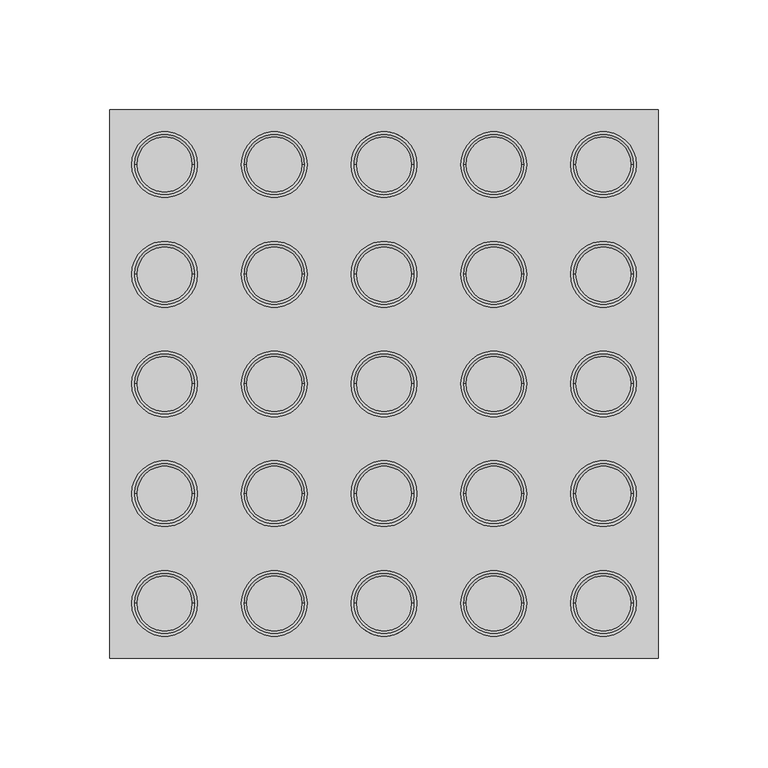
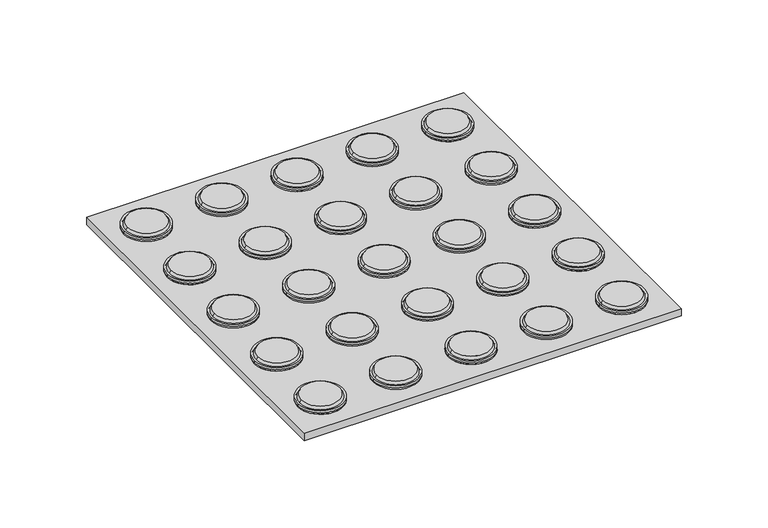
"""IFC4 building model written with IfcOpenShell, lengths in millimetres: proxy geometry, Sinalização tátil - NBR 9050 : Sinalização tátil - NBR 9050."""

from ifc_helpers import new_model, si_unit, point, frame, frame_2d, origin, origin_with_axes, origin_2d, place, context, project, spatial, polyline, circle_curve, trimmed, segment, composite_curve, outline, extrude, source, transform, mapped, element, save
from ifc_brep_helpers import plane_surface, revolved_surface, advanced_brep


def generic_models_d4dd3fca(model_context):
    return source(origin(), model_context, "Body", "SolidModel", [
        advanced_brep(
        [(87.5, 100.0, 9.0), (112.5, 100.0, 9.0), (85.0, 100.0, 5.0), (115.0, 100.0, 5.0)],
        [
            (0, 1, circle_curve(frame((100.0, 100.0, 9.0), z_axis=(0.0, 0.0, 1.0), x_axis=(-1.0, 0.0, 0.0)), 12.5)),
            (1, 0, circle_curve(frame((100.0, 100.0, 9.0), z_axis=(0.0, 0.0, 1.0), x_axis=(1.0, 0.0, 0.0)), 12.5)),
            (2, 3, circle_curve(frame((100.0, 100.0, 5.0), z_axis=(0.0, 0.0, -1.0), x_axis=(1.0, 0.0, 0.0)), 15.0)),
            (3, 2, circle_curve(frame((100.0, 100.0, 5.0), z_axis=(0.0, 0.0, -1.0), x_axis=(-1.0, 0.0, 0.0)), 15.0)),
            (3, 1),
            (0, 2),
        ],
        [
            plane_surface(frame((100.0, 100.0, 9.0), z_axis=(0.0, 0.0, 1.0), x_axis=(0.0, -1.0, 0.0))),
            plane_surface(frame((100.0, 100.0, 5.0), z_axis=(0.0, 0.0, -1.0), x_axis=(0.0, -1.0, 0.0))),
            revolved_surface(polyline([(87.5, 100.0, 9.0), (85.0, 100.0, 5.0)]), (100.0, 100.0, 29.0), (0.0, 0.0, -1.0)),
            revolved_surface(polyline([(112.5, 100.0, 9.0), (115.0, 100.0, 5.0)]), (100.0, 100.0, 29.0), (0.0, 0.0, -1.0)),
        ],
        [
            (0, [[1, 2]]),
            (1, [[3, 4]]),
            (2, [[-4, 5, -1, 6]]),
            (3, [[-3, -6, -2, -5]]),
        ],
    ),
        advanced_brep(
        [(37.5, 100.0, 9.0), (62.5, 100.0, 9.0), (35.0, 100.0, 5.0), (65.0, 100.0, 5.0)],
        [
            (0, 1, circle_curve(frame((50.0, 100.0, 9.0), z_axis=(0.0, 0.0, 1.0), x_axis=(-1.0, 0.0, 0.0)), 12.5)),
            (1, 0, circle_curve(frame((50.0, 100.0, 9.0), z_axis=(0.0, 0.0, 1.0), x_axis=(1.0, 0.0, 0.0)), 12.5)),
            (2, 3, circle_curve(frame((50.0, 100.0, 5.0), z_axis=(0.0, 0.0, -1.0), x_axis=(1.0, 0.0, 0.0)), 15.0)),
            (3, 2, circle_curve(frame((50.0, 100.0, 5.0), z_axis=(0.0, 0.0, -1.0), x_axis=(-1.0, 0.0, 0.0)), 15.0)),
            (3, 1),
            (0, 2),
        ],
        [
            plane_surface(frame((50.0, 100.0, 9.0), z_axis=(0.0, 0.0, 1.0), x_axis=(0.0, -1.0, 0.0))),
            plane_surface(frame((50.0, 100.0, 5.0), z_axis=(0.0, 0.0, -1.0), x_axis=(0.0, -1.0, 0.0))),
            revolved_surface(polyline([(37.5, 100.0, 9.0), (35.0, 100.0, 5.0)]), (50.0, 100.0, 29.0), (0.0, 0.0, -1.0)),
            revolved_surface(polyline([(62.5, 100.0, 9.0), (65.0, 100.0, 5.0)]), (50.0, 100.0, 29.0), (0.0, 0.0, -1.0)),
        ],
        [
            (0, [[1, 2]]),
            (1, [[3, 4]]),
            (2, [[-4, 5, -1, 6]]),
            (3, [[-3, -6, -2, -5]]),
        ],
    ),
        advanced_brep(
        [(-12.5, 100.0, 9.0), (12.5, 100.0, 9.0), (-15.0, 100.0, 5.0), (15.0, 100.0, 5.0)],
        [
            (0, 1, circle_curve(frame((0.0, 100.0, 9.0), z_axis=(0.0, 0.0, 1.0), x_axis=(-1.0, 0.0, 0.0)), 12.5)),
            (1, 0, circle_curve(frame((0.0, 100.0, 9.0), z_axis=(0.0, 0.0, 1.0), x_axis=(1.0, 0.0, 0.0)), 12.5)),
            (2, 3, circle_curve(frame((0.0, 100.0, 5.0), z_axis=(0.0, 0.0, -1.0), x_axis=(1.0, 0.0, 0.0)), 15.0)),
            (3, 2, circle_curve(frame((0.0, 100.0, 5.0), z_axis=(0.0, 0.0, -1.0), x_axis=(-1.0, 0.0, 0.0)), 15.0)),
            (3, 1),
            (0, 2),
        ],
        [
            plane_surface(frame((0.0, 100.0, 9.0), z_axis=(0.0, 0.0, 1.0), x_axis=(0.0, -1.0, 0.0))),
            plane_surface(frame((0.0, 100.0, 5.0), z_axis=(0.0, 0.0, -1.0), x_axis=(0.0, -1.0, 0.0))),
            revolved_surface(polyline([(-12.5, 100.0, 9.0), (-15.0, 100.0, 5.0)]), (0.0, 100.0, 29.0), (0.0, 0.0, -1.0)),
            revolved_surface(polyline([(12.5, 100.0, 9.0), (15.0, 100.0, 5.0)]), (0.0, 100.0, 29.0), (0.0, 0.0, -1.0)),
        ],
        [
            (0, [[1, 2]]),
            (1, [[3, 4]]),
            (2, [[-4, 5, -1, 6]]),
            (3, [[-3, -6, -2, -5]]),
        ],
    ),
        advanced_brep(
        [(-62.5, 100.0, 9.0), (-37.5, 100.0, 9.0), (-65.0, 100.0, 5.0), (-35.0, 100.0, 5.0)],
        [
            (0, 1, circle_curve(frame((-50.0, 100.0, 9.0), z_axis=(0.0, 0.0, 1.0), x_axis=(-1.0, 0.0, 0.0)), 12.5)),
            (1, 0, circle_curve(frame((-50.0, 100.0, 9.0), z_axis=(0.0, 0.0, 1.0), x_axis=(1.0, 0.0, 0.0)), 12.5)),
            (2, 3, circle_curve(frame((-50.0, 100.0, 5.0), z_axis=(0.0, 0.0, -1.0), x_axis=(1.0, 0.0, 0.0)), 15.0)),
            (3, 2, circle_curve(frame((-50.0, 100.0, 5.0), z_axis=(0.0, 0.0, -1.0), x_axis=(-1.0, 0.0, 0.0)), 15.0)),
            (3, 1),
            (0, 2),
        ],
        [
            plane_surface(frame((-50.0, 100.0, 9.0), z_axis=(0.0, 0.0, 1.0), x_axis=(0.0, -1.0, 0.0))),
            plane_surface(frame((-50.0, 100.0, 5.0), z_axis=(0.0, 0.0, -1.0), x_axis=(0.0, -1.0, 0.0))),
            revolved_surface(polyline([(-62.5, 100.0, 9.0), (-65.0, 100.0, 5.0)]), (-50.0, 100.0, 29.0), (0.0, 0.0, -1.0)),
            revolved_surface(polyline([(-37.5, 100.0, 9.0), (-35.0, 100.0, 5.0)]), (-50.0, 100.0, 29.0), (0.0, 0.0, -1.0)),
        ],
        [
            (0, [[1, 2]]),
            (1, [[3, 4]]),
            (2, [[-4, 5, -1, 6]]),
            (3, [[-3, -6, -2, -5]]),
        ],
    ),
        advanced_brep(
        [(-112.5, 100.0, 9.0), (-87.5, 100.0, 9.0), (-115.0, 100.0, 5.0), (-85.0, 100.0, 5.0)],
        [
            (0, 1, circle_curve(frame((-100.0, 100.0, 9.0), z_axis=(0.0, 0.0, 1.0), x_axis=(-1.0, 0.0, 0.0)), 12.5)),
            (1, 0, circle_curve(frame((-100.0, 100.0, 9.0), z_axis=(0.0, 0.0, 1.0), x_axis=(1.0, 0.0, 0.0)), 12.5)),
            (2, 3, circle_curve(frame((-100.0, 100.0, 5.0), z_axis=(0.0, 0.0, -1.0), x_axis=(1.0, 0.0, 0.0)), 15.0)),
            (3, 2, circle_curve(frame((-100.0, 100.0, 5.0), z_axis=(0.0, 0.0, -1.0), x_axis=(-1.0, 0.0, 0.0)), 15.0)),
            (3, 1),
            (0, 2),
        ],
        [
            plane_surface(frame((-100.0, 100.0, 9.0), z_axis=(0.0, 0.0, 1.0), x_axis=(0.0, -1.0, 0.0))),
            plane_surface(frame((-100.0, 100.0, 5.0), z_axis=(0.0, 0.0, -1.0), x_axis=(0.0, -1.0, 0.0))),
            revolved_surface(polyline([(-112.5, 100.0, 9.0), (-115.0, 100.0, 5.0)]), (-100.0, 100.0, 29.0), (0.0, 0.0, -1.0)),
            revolved_surface(polyline([(-87.5, 100.0, 9.0), (-85.0, 100.0, 5.0)]), (-100.0, 100.0, 29.0), (0.0, 0.0, -1.0)),
        ],
        [
            (0, [[1, 2]]),
            (1, [[3, 4]]),
            (2, [[-4, 5, -1, 6]]),
            (3, [[-3, -6, -2, -5]]),
        ],
    ),
        advanced_brep(
        [(87.5, 50.0, 9.0), (112.5, 50.0, 9.0), (85.0, 50.0, 5.0), (115.0, 50.0, 5.0)],
        [
            (0, 1, circle_curve(frame((100.0, 50.0, 9.0), z_axis=(0.0, 0.0, 1.0), x_axis=(-1.0, 0.0, 0.0)), 12.5)),
            (1, 0, circle_curve(frame((100.0, 50.0, 9.0), z_axis=(0.0, 0.0, 1.0), x_axis=(1.0, 0.0, 0.0)), 12.5)),
            (2, 3, circle_curve(frame((100.0, 50.0, 5.0), z_axis=(0.0, 0.0, -1.0), x_axis=(1.0, 0.0, 0.0)), 15.0)),
            (3, 2, circle_curve(frame((100.0, 50.0, 5.0), z_axis=(0.0, 0.0, -1.0), x_axis=(-1.0, 0.0, 0.0)), 15.0)),
            (3, 1),
            (0, 2),
        ],
        [
            plane_surface(frame((100.0, 50.0, 9.0), z_axis=(0.0, 0.0, 1.0), x_axis=(0.0, -1.0, 0.0))),
            plane_surface(frame((100.0, 50.0, 5.0), z_axis=(0.0, 0.0, -1.0), x_axis=(0.0, -1.0, 0.0))),
            revolved_surface(polyline([(87.5, 50.0, 9.0), (85.0, 50.0, 5.0)]), (100.0, 50.0, 29.0), (0.0, 0.0, -1.0)),
            revolved_surface(polyline([(112.5, 50.0, 9.0), (115.0, 50.0, 5.0)]), (100.0, 50.0, 29.0), (0.0, 0.0, -1.0)),
        ],
        [
            (0, [[1, 2]]),
            (1, [[3, 4]]),
            (2, [[-4, 5, -1, 6]]),
            (3, [[-3, -6, -2, -5]]),
        ],
    ),
        advanced_brep(
        [(37.5, 50.0, 9.0), (62.5, 50.0, 9.0), (35.0, 50.0, 5.0), (65.0, 50.0, 5.0)],
        [
            (0, 1, circle_curve(frame((50.0, 50.0, 9.0), z_axis=(0.0, 0.0, 1.0), x_axis=(-1.0, 0.0, 0.0)), 12.5)),
            (1, 0, circle_curve(frame((50.0, 50.0, 9.0), z_axis=(0.0, 0.0, 1.0), x_axis=(1.0, 0.0, 0.0)), 12.5)),
            (2, 3, circle_curve(frame((50.0, 50.0, 5.0), z_axis=(0.0, 0.0, -1.0), x_axis=(1.0, 0.0, 0.0)), 15.0)),
            (3, 2, circle_curve(frame((50.0, 50.0, 5.0), z_axis=(0.0, 0.0, -1.0), x_axis=(-1.0, 0.0, 0.0)), 15.0)),
            (3, 1),
            (0, 2),
        ],
        [
            plane_surface(frame((50.0, 50.0, 9.0), z_axis=(0.0, 0.0, 1.0), x_axis=(0.0, -1.0, 0.0))),
            plane_surface(frame((50.0, 50.0, 5.0), z_axis=(0.0, 0.0, -1.0), x_axis=(0.0, -1.0, 0.0))),
            revolved_surface(polyline([(37.5, 50.0, 9.0), (35.0, 50.0, 5.0)]), (50.0, 50.0, 29.0), (0.0, 0.0, -1.0)),
            revolved_surface(polyline([(62.5, 50.0, 9.0), (65.0, 50.0, 5.0)]), (50.0, 50.0, 29.0), (0.0, 0.0, -1.0)),
        ],
        [
            (0, [[1, 2]]),
            (1, [[3, 4]]),
            (2, [[-4, 5, -1, 6]]),
            (3, [[-3, -6, -2, -5]]),
        ],
    ),
        advanced_brep(
        [(-12.5, 50.0, 9.0), (12.5, 50.0, 9.0), (-15.0, 50.0, 5.0), (15.0, 50.0, 5.0)],
        [
            (0, 1, circle_curve(frame((0.0, 50.0, 9.0), z_axis=(0.0, 0.0, 1.0), x_axis=(-1.0, 0.0, 0.0)), 12.5)),
            (1, 0, circle_curve(frame((0.0, 50.0, 9.0), z_axis=(0.0, 0.0, 1.0), x_axis=(1.0, 0.0, 0.0)), 12.5)),
            (2, 3, circle_curve(frame((0.0, 50.0, 5.0), z_axis=(0.0, 0.0, -1.0), x_axis=(1.0, 0.0, 0.0)), 15.0)),
            (3, 2, circle_curve(frame((0.0, 50.0, 5.0), z_axis=(0.0, 0.0, -1.0), x_axis=(-1.0, 0.0, 0.0)), 15.0)),
            (3, 1),
            (0, 2),
        ],
        [
            plane_surface(frame((0.0, 50.0, 9.0), z_axis=(0.0, 0.0, 1.0), x_axis=(0.0, -1.0, 0.0))),
            plane_surface(frame((0.0, 50.0, 5.0), z_axis=(0.0, 0.0, -1.0), x_axis=(0.0, -1.0, 0.0))),
            revolved_surface(polyline([(-12.5, 50.0, 9.0), (-15.0, 50.0, 5.0)]), (0.0, 50.0, 29.0), (0.0, 0.0, -1.0)),
            revolved_surface(polyline([(12.5, 50.0, 9.0), (15.0, 50.0, 5.0)]), (0.0, 50.0, 29.0), (0.0, 0.0, -1.0)),
        ],
        [
            (0, [[1, 2]]),
            (1, [[3, 4]]),
            (2, [[-4, 5, -1, 6]]),
            (3, [[-3, -6, -2, -5]]),
        ],
    ),
        advanced_brep(
        [(-62.5, 50.0, 9.0), (-37.5, 50.0, 9.0), (-65.0, 50.0, 5.0), (-35.0, 50.0, 5.0)],
        [
            (0, 1, circle_curve(frame((-50.0, 50.0, 9.0), z_axis=(0.0, 0.0, 1.0), x_axis=(-1.0, 0.0, 0.0)), 12.5)),
            (1, 0, circle_curve(frame((-50.0, 50.0, 9.0), z_axis=(0.0, 0.0, 1.0), x_axis=(1.0, 0.0, 0.0)), 12.5)),
            (2, 3, circle_curve(frame((-50.0, 50.0, 5.0), z_axis=(0.0, 0.0, -1.0), x_axis=(1.0, 0.0, 0.0)), 15.0)),
            (3, 2, circle_curve(frame((-50.0, 50.0, 5.0), z_axis=(0.0, 0.0, -1.0), x_axis=(-1.0, 0.0, 0.0)), 15.0)),
            (3, 1),
            (0, 2),
        ],
        [
            plane_surface(frame((-50.0, 50.0, 9.0), z_axis=(0.0, 0.0, 1.0), x_axis=(0.0, -1.0, 0.0))),
            plane_surface(frame((-50.0, 50.0, 5.0), z_axis=(0.0, 0.0, -1.0), x_axis=(0.0, -1.0, 0.0))),
            revolved_surface(polyline([(-62.5, 50.0, 9.0), (-65.0, 50.0, 5.0)]), (-50.0, 50.0, 29.0), (0.0, 0.0, -1.0)),
            revolved_surface(polyline([(-37.5, 50.0, 9.0), (-35.0, 50.0, 5.0)]), (-50.0, 50.0, 29.0), (0.0, 0.0, -1.0)),
        ],
        [
            (0, [[1, 2]]),
            (1, [[3, 4]]),
            (2, [[-4, 5, -1, 6]]),
            (3, [[-3, -6, -2, -5]]),
        ],
    ),
        advanced_brep(
        [(-112.5, 50.0, 9.0), (-87.5, 50.0, 9.0), (-115.0, 50.0, 5.0), (-85.0, 50.0, 5.0)],
        [
            (0, 1, circle_curve(frame((-100.0, 50.0, 9.0), z_axis=(0.0, 0.0, 1.0), x_axis=(-1.0, 0.0, 0.0)), 12.5)),
            (1, 0, circle_curve(frame((-100.0, 50.0, 9.0), z_axis=(0.0, 0.0, 1.0), x_axis=(1.0, 0.0, 0.0)), 12.5)),
            (2, 3, circle_curve(frame((-100.0, 50.0, 5.0), z_axis=(0.0, 0.0, -1.0), x_axis=(1.0, 0.0, 0.0)), 15.0)),
            (3, 2, circle_curve(frame((-100.0, 50.0, 5.0), z_axis=(0.0, 0.0, -1.0), x_axis=(-1.0, 0.0, 0.0)), 15.0)),
            (3, 1),
            (0, 2),
        ],
        [
            plane_surface(frame((-100.0, 50.0, 9.0), z_axis=(0.0, 0.0, 1.0), x_axis=(0.0, -1.0, 0.0))),
            plane_surface(frame((-100.0, 50.0, 5.0), z_axis=(0.0, 0.0, -1.0), x_axis=(0.0, -1.0, 0.0))),
            revolved_surface(polyline([(-112.5, 50.0, 9.0), (-115.0, 50.0, 5.0)]), (-100.0, 50.0, 29.0), (0.0, 0.0, -1.0)),
            revolved_surface(polyline([(-87.5, 50.0, 9.0), (-85.0, 50.0, 5.0)]), (-100.0, 50.0, 29.0), (0.0, 0.0, -1.0)),
        ],
        [
            (0, [[1, 2]]),
            (1, [[3, 4]]),
            (2, [[-4, 5, -1, 6]]),
            (3, [[-3, -6, -2, -5]]),
        ],
    ),
        advanced_brep(
        [(87.5, 0.0, 9.0), (112.5, 0.0, 9.0), (85.0, 0.0, 5.0), (115.0, 0.0, 5.0)],
        [
            (0, 1, circle_curve(frame((100.0, 0.0, 9.0), z_axis=(0.0, 0.0, 1.0), x_axis=(-1.0, 0.0, 0.0)), 12.5)),
            (1, 0, circle_curve(frame((100.0, 0.0, 9.0), z_axis=(0.0, 0.0, 1.0), x_axis=(1.0, 0.0, 0.0)), 12.5)),
            (2, 3, circle_curve(frame((100.0, 0.0, 5.0), z_axis=(0.0, 0.0, -1.0), x_axis=(1.0, 0.0, 0.0)), 15.0)),
            (3, 2, circle_curve(frame((100.0, 0.0, 5.0), z_axis=(0.0, 0.0, -1.0), x_axis=(-1.0, 0.0, 0.0)), 15.0)),
            (3, 1),
            (0, 2),
        ],
        [
            plane_surface(frame((100.0, 0.0, 9.0), z_axis=(0.0, 0.0, 1.0), x_axis=(0.0, -1.0, 0.0))),
            plane_surface(frame((100.0, 0.0, 5.0), z_axis=(0.0, 0.0, -1.0), x_axis=(0.0, -1.0, 0.0))),
            revolved_surface(polyline([(87.5, 0.0, 9.0), (85.0, 0.0, 5.0)]), (100.0, 0.0, 29.0), (0.0, 0.0, -1.0)),
            revolved_surface(polyline([(112.5, 0.0, 9.0), (115.0, 0.0, 5.0)]), (100.0, 0.0, 29.0), (0.0, 0.0, -1.0)),
        ],
        [
            (0, [[1, 2]]),
            (1, [[3, 4]]),
            (2, [[-4, 5, -1, 6]]),
            (3, [[-3, -6, -2, -5]]),
        ],
    ),
        advanced_brep(
        [(37.5, 0.0, 9.0), (62.5, 0.0, 9.0), (35.0, 0.0, 5.0), (65.0, 0.0, 5.0)],
        [
            (0, 1, circle_curve(frame((50.0, 0.0, 9.0), z_axis=(0.0, 0.0, 1.0), x_axis=(-1.0, 0.0, 0.0)), 12.5)),
            (1, 0, circle_curve(frame((50.0, 0.0, 9.0), z_axis=(0.0, 0.0, 1.0), x_axis=(1.0, 0.0, 0.0)), 12.5)),
            (2, 3, circle_curve(frame((50.0, 0.0, 5.0), z_axis=(0.0, 0.0, -1.0), x_axis=(1.0, 0.0, 0.0)), 15.0)),
            (3, 2, circle_curve(frame((50.0, 0.0, 5.0), z_axis=(0.0, 0.0, -1.0), x_axis=(-1.0, 0.0, 0.0)), 15.0)),
            (3, 1),
            (0, 2),
        ],
        [
            plane_surface(frame((50.0, 0.0, 9.0), z_axis=(0.0, 0.0, 1.0), x_axis=(0.0, -1.0, 0.0))),
            plane_surface(frame((50.0, 0.0, 5.0), z_axis=(0.0, 0.0, -1.0), x_axis=(0.0, -1.0, 0.0))),
            revolved_surface(polyline([(37.5, 0.0, 9.0), (35.0, 0.0, 5.0)]), (50.0, 0.0, 29.0), (0.0, 0.0, -1.0)),
            revolved_surface(polyline([(62.5, 0.0, 9.0), (65.0, 0.0, 5.0)]), (50.0, 0.0, 29.0), (0.0, 0.0, -1.0)),
        ],
        [
            (0, [[1, 2]]),
            (1, [[3, 4]]),
            (2, [[-4, 5, -1, 6]]),
            (3, [[-3, -6, -2, -5]]),
        ],
    ),
        advanced_brep(
        [(-12.5, 0.0, 9.0), (12.5, 0.0, 9.0), (-15.0, 0.0, 5.0), (15.0, 0.0, 5.0)],
        [
            (0, 1, circle_curve(frame((0.0, 0.0, 9.0), z_axis=(0.0, 0.0, 1.0), x_axis=(-1.0, 0.0, 0.0)), 12.5)),
            (1, 0, circle_curve(frame((0.0, 0.0, 9.0), z_axis=(0.0, 0.0, 1.0), x_axis=(1.0, 0.0, 0.0)), 12.5)),
            (2, 3, circle_curve(frame((0.0, 0.0, 5.0), z_axis=(0.0, 0.0, -1.0), x_axis=(1.0, 0.0, 0.0)), 15.0)),
            (3, 2, circle_curve(frame((0.0, 0.0, 5.0), z_axis=(0.0, 0.0, -1.0), x_axis=(-1.0, 0.0, 0.0)), 15.0)),
            (3, 1),
            (0, 2),
        ],
        [
            plane_surface(frame((0.0, 0.0, 9.0), z_axis=(0.0, 0.0, 1.0), x_axis=(0.0, -1.0, 0.0))),
            plane_surface(frame((0.0, 0.0, 5.0), z_axis=(0.0, 0.0, -1.0), x_axis=(0.0, -1.0, 0.0))),
            revolved_surface(polyline([(-12.5, 0.0, 9.0), (-15.0, 0.0, 5.0)]), (0.0, 0.0, 29.0), (0.0, 0.0, -1.0)),
            revolved_surface(polyline([(12.5, 0.0, 9.0), (15.0, 0.0, 5.0)]), (0.0, 0.0, 29.0), (0.0, 0.0, -1.0)),
        ],
        [
            (0, [[1, 2]]),
            (1, [[3, 4]]),
            (2, [[-4, 5, -1, 6]]),
            (3, [[-3, -6, -2, -5]]),
        ],
    ),
        advanced_brep(
        [(-62.5, 0.0, 9.0), (-37.5, 0.0, 9.0), (-65.0, 0.0, 5.0), (-35.0, 0.0, 5.0)],
        [
            (0, 1, circle_curve(frame((-50.0, 0.0, 9.0), z_axis=(0.0, 0.0, 1.0), x_axis=(-1.0, 0.0, 0.0)), 12.5)),
            (1, 0, circle_curve(frame((-50.0, 0.0, 9.0), z_axis=(0.0, 0.0, 1.0), x_axis=(1.0, 0.0, 0.0)), 12.5)),
            (2, 3, circle_curve(frame((-50.0, 0.0, 5.0), z_axis=(0.0, 0.0, -1.0), x_axis=(1.0, 0.0, 0.0)), 15.0)),
            (3, 2, circle_curve(frame((-50.0, 0.0, 5.0), z_axis=(0.0, 0.0, -1.0), x_axis=(-1.0, 0.0, 0.0)), 15.0)),
            (3, 1),
            (0, 2),
        ],
        [
            plane_surface(frame((-50.0, 0.0, 9.0), z_axis=(0.0, 0.0, 1.0), x_axis=(0.0, -1.0, 0.0))),
            plane_surface(frame((-50.0, 0.0, 5.0), z_axis=(0.0, 0.0, -1.0), x_axis=(0.0, -1.0, 0.0))),
            revolved_surface(polyline([(-62.5, 0.0, 9.0), (-65.0, 0.0, 5.0)]), (-50.0, 0.0, 29.0), (0.0, 0.0, -1.0)),
            revolved_surface(polyline([(-37.5, 0.0, 9.0), (-35.0, 0.0, 5.0)]), (-50.0, 0.0, 29.0), (0.0, 0.0, -1.0)),
        ],
        [
            (0, [[1, 2]]),
            (1, [[3, 4]]),
            (2, [[-4, 5, -1, 6]]),
            (3, [[-3, -6, -2, -5]]),
        ],
    ),
        advanced_brep(
        [(-112.5, 0.0, 9.0), (-87.5, 0.0, 9.0), (-115.0, 0.0, 5.0), (-85.0, 0.0, 5.0)],
        [
            (0, 1, circle_curve(frame((-100.0, 0.0, 9.0), z_axis=(0.0, 0.0, 1.0), x_axis=(-1.0, 0.0, 0.0)), 12.5)),
            (1, 0, circle_curve(frame((-100.0, 0.0, 9.0), z_axis=(0.0, 0.0, 1.0), x_axis=(1.0, 0.0, 0.0)), 12.5)),
            (2, 3, circle_curve(frame((-100.0, 0.0, 5.0), z_axis=(0.0, 0.0, -1.0), x_axis=(1.0, 0.0, 0.0)), 15.0)),
            (3, 2, circle_curve(frame((-100.0, 0.0, 5.0), z_axis=(0.0, 0.0, -1.0), x_axis=(-1.0, 0.0, 0.0)), 15.0)),
            (3, 1),
            (0, 2),
        ],
        [
            plane_surface(frame((-100.0, 0.0, 9.0), z_axis=(0.0, 0.0, 1.0), x_axis=(0.0, -1.0, 0.0))),
            plane_surface(frame((-100.0, 0.0, 5.0), z_axis=(0.0, 0.0, -1.0), x_axis=(0.0, -1.0, 0.0))),
            revolved_surface(polyline([(-112.5, 0.0, 9.0), (-115.0, 0.0, 5.0)]), (-100.0, 0.0, 29.0), (0.0, 0.0, -1.0)),
            revolved_surface(polyline([(-87.5, 0.0, 9.0), (-85.0, 0.0, 5.0)]), (-100.0, 0.0, 29.0), (0.0, 0.0, -1.0)),
        ],
        [
            (0, [[1, 2]]),
            (1, [[3, 4]]),
            (2, [[-4, 5, -1, 6]]),
            (3, [[-3, -6, -2, -5]]),
        ],
    ),
        advanced_brep(
        [(87.5, -50.0, 9.0), (112.5, -50.0, 9.0), (85.0, -50.0, 5.0), (115.0, -50.0, 5.0)],
        [
            (0, 1, circle_curve(frame((100.0, -50.0, 9.0), z_axis=(0.0, 0.0, 1.0), x_axis=(-1.0, 0.0, 0.0)), 12.5)),
            (1, 0, circle_curve(frame((100.0, -50.0, 9.0), z_axis=(0.0, 0.0, 1.0), x_axis=(1.0, 0.0, 0.0)), 12.5)),
            (2, 3, circle_curve(frame((100.0, -50.0, 5.0), z_axis=(0.0, 0.0, -1.0), x_axis=(1.0, 0.0, 0.0)), 15.0)),
            (3, 2, circle_curve(frame((100.0, -50.0, 5.0), z_axis=(0.0, 0.0, -1.0), x_axis=(-1.0, 0.0, 0.0)), 15.0)),
            (3, 1),
            (0, 2),
        ],
        [
            plane_surface(frame((100.0, -50.0, 9.0), z_axis=(0.0, 0.0, 1.0), x_axis=(0.0, -1.0, 0.0))),
            plane_surface(frame((100.0, -50.0, 5.0), z_axis=(0.0, 0.0, -1.0), x_axis=(0.0, -1.0, 0.0))),
            revolved_surface(polyline([(87.5, -50.0, 9.0), (85.0, -50.0, 5.0)]), (100.0, -50.0, 29.0), (0.0, 0.0, -1.0)),
            revolved_surface(polyline([(112.5, -50.0, 9.0), (115.0, -50.0, 5.0)]), (100.0, -50.0, 29.0), (0.0, 0.0, -1.0)),
        ],
        [
            (0, [[1, 2]]),
            (1, [[3, 4]]),
            (2, [[-4, 5, -1, 6]]),
            (3, [[-3, -6, -2, -5]]),
        ],
    ),
        advanced_brep(
        [(37.5, -50.0, 9.0), (62.5, -50.0, 9.0), (35.0, -50.0, 5.0), (65.0, -50.0, 5.0)],
        [
            (0, 1, circle_curve(frame((50.0, -50.0, 9.0), z_axis=(0.0, 0.0, 1.0), x_axis=(-1.0, 0.0, 0.0)), 12.5)),
            (1, 0, circle_curve(frame((50.0, -50.0, 9.0), z_axis=(0.0, 0.0, 1.0), x_axis=(1.0, 0.0, 0.0)), 12.5)),
            (2, 3, circle_curve(frame((50.0, -50.0, 5.0), z_axis=(0.0, 0.0, -1.0), x_axis=(1.0, 0.0, 0.0)), 15.0)),
            (3, 2, circle_curve(frame((50.0, -50.0, 5.0), z_axis=(0.0, 0.0, -1.0), x_axis=(-1.0, 0.0, 0.0)), 15.0)),
            (3, 1),
            (0, 2),
        ],
        [
            plane_surface(frame((50.0, -50.0, 9.0), z_axis=(0.0, 0.0, 1.0), x_axis=(0.0, -1.0, 0.0))),
            plane_surface(frame((50.0, -50.0, 5.0), z_axis=(0.0, 0.0, -1.0), x_axis=(0.0, -1.0, 0.0))),
            revolved_surface(polyline([(37.5, -50.0, 9.0), (35.0, -50.0, 5.0)]), (50.0, -50.0, 29.0), (0.0, 0.0, -1.0)),
            revolved_surface(polyline([(62.5, -50.0, 9.0), (65.0, -50.0, 5.0)]), (50.0, -50.0, 29.0), (0.0, 0.0, -1.0)),
        ],
        [
            (0, [[1, 2]]),
            (1, [[3, 4]]),
            (2, [[-4, 5, -1, 6]]),
            (3, [[-3, -6, -2, -5]]),
        ],
    ),
        advanced_brep(
        [(-12.5, -50.0, 9.0), (12.5, -50.0, 9.0), (-15.0, -50.0, 5.0), (15.0, -50.0, 5.0)],
        [
            (0, 1, circle_curve(frame((0.0, -50.0, 9.0), z_axis=(0.0, 0.0, 1.0), x_axis=(-1.0, 0.0, 0.0)), 12.5)),
            (1, 0, circle_curve(frame((0.0, -50.0, 9.0), z_axis=(0.0, 0.0, 1.0), x_axis=(1.0, 0.0, 0.0)), 12.5)),
            (2, 3, circle_curve(frame((0.0, -50.0, 5.0), z_axis=(0.0, 0.0, -1.0), x_axis=(1.0, 0.0, 0.0)), 15.0)),
            (3, 2, circle_curve(frame((0.0, -50.0, 5.0), z_axis=(0.0, 0.0, -1.0), x_axis=(-1.0, 0.0, 0.0)), 15.0)),
            (3, 1),
            (0, 2),
        ],
        [
            plane_surface(frame((0.0, -50.0, 9.0), z_axis=(0.0, 0.0, 1.0), x_axis=(0.0, -1.0, 0.0))),
            plane_surface(frame((0.0, -50.0, 5.0), z_axis=(0.0, 0.0, -1.0), x_axis=(0.0, -1.0, 0.0))),
            revolved_surface(polyline([(-12.5, -50.0, 9.0), (-15.0, -50.0, 5.0)]), (0.0, -50.0, 29.0), (0.0, 0.0, -1.0)),
            revolved_surface(polyline([(12.5, -50.0, 9.0), (15.0, -50.0, 5.0)]), (0.0, -50.0, 29.0), (0.0, 0.0, -1.0)),
        ],
        [
            (0, [[1, 2]]),
            (1, [[3, 4]]),
            (2, [[-4, 5, -1, 6]]),
            (3, [[-3, -6, -2, -5]]),
        ],
    ),
        advanced_brep(
        [(-62.5, -50.0, 9.0), (-37.5, -50.0, 9.0), (-65.0, -50.0, 5.0), (-35.0, -50.0, 5.0)],
        [
            (0, 1, circle_curve(frame((-50.0, -50.0, 9.0), z_axis=(0.0, 0.0, 1.0), x_axis=(-1.0, 0.0, 0.0)), 12.5)),
            (1, 0, circle_curve(frame((-50.0, -50.0, 9.0), z_axis=(0.0, 0.0, 1.0), x_axis=(1.0, 0.0, 0.0)), 12.5)),
            (2, 3, circle_curve(frame((-50.0, -50.0, 5.0), z_axis=(0.0, 0.0, -1.0), x_axis=(1.0, 0.0, 0.0)), 15.0)),
            (3, 2, circle_curve(frame((-50.0, -50.0, 5.0), z_axis=(0.0, 0.0, -1.0), x_axis=(-1.0, 0.0, 0.0)), 15.0)),
            (3, 1),
            (0, 2),
        ],
        [
            plane_surface(frame((-50.0, -50.0, 9.0), z_axis=(0.0, 0.0, 1.0), x_axis=(0.0, -1.0, 0.0))),
            plane_surface(frame((-50.0, -50.0, 5.0), z_axis=(0.0, 0.0, -1.0), x_axis=(0.0, -1.0, 0.0))),
            revolved_surface(polyline([(-62.5, -50.0, 9.0), (-65.0, -50.0, 5.0)]), (-50.0, -50.0, 29.0), (0.0, 0.0, -1.0)),
            revolved_surface(polyline([(-37.5, -50.0, 9.0), (-35.0, -50.0, 5.0)]), (-50.0, -50.0, 29.0), (0.0, 0.0, -1.0)),
        ],
        [
            (0, [[1, 2]]),
            (1, [[3, 4]]),
            (2, [[-4, 5, -1, 6]]),
            (3, [[-3, -6, -2, -5]]),
        ],
    ),
        advanced_brep(
        [(-112.5, -50.0, 9.0), (-87.5, -50.0, 9.0), (-115.0, -50.0, 5.0), (-85.0, -50.0, 5.0)],
        [
            (0, 1, circle_curve(frame((-100.0, -50.0, 9.0), z_axis=(0.0, 0.0, 1.0), x_axis=(-1.0, 0.0, 0.0)), 12.5)),
            (1, 0, circle_curve(frame((-100.0, -50.0, 9.0), z_axis=(0.0, 0.0, 1.0), x_axis=(1.0, 0.0, 0.0)), 12.5)),
            (2, 3, circle_curve(frame((-100.0, -50.0, 5.0), z_axis=(0.0, 0.0, -1.0), x_axis=(1.0, 0.0, 0.0)), 15.0)),
            (3, 2, circle_curve(frame((-100.0, -50.0, 5.0), z_axis=(0.0, 0.0, -1.0), x_axis=(-1.0, 0.0, 0.0)), 15.0)),
            (3, 1),
            (0, 2),
        ],
        [
            plane_surface(frame((-100.0, -50.0, 9.0), z_axis=(0.0, 0.0, 1.0), x_axis=(0.0, -1.0, 0.0))),
            plane_surface(frame((-100.0, -50.0, 5.0), z_axis=(0.0, 0.0, -1.0), x_axis=(0.0, -1.0, 0.0))),
            revolved_surface(polyline([(-112.5, -50.0, 9.0), (-115.0, -50.0, 5.0)]), (-100.0, -50.0, 29.0), (0.0, 0.0, -1.0)),
            revolved_surface(polyline([(-87.5, -50.0, 9.0), (-85.0, -50.0, 5.0)]), (-100.0, -50.0, 29.0), (0.0, 0.0, -1.0)),
        ],
        [
            (0, [[1, 2]]),
            (1, [[3, 4]]),
            (2, [[-4, 5, -1, 6]]),
            (3, [[-3, -6, -2, -5]]),
        ],
    ),
        advanced_brep(
        [(87.5, -100.0, 9.0), (112.5, -100.0, 9.0), (85.0, -100.0, 5.0), (115.0, -100.0, 5.0)],
        [
            (0, 1, circle_curve(frame((100.0, -100.0, 9.0), z_axis=(0.0, 0.0, 1.0), x_axis=(-1.0, 0.0, 0.0)), 12.5)),
            (1, 0, circle_curve(frame((100.0, -100.0, 9.0), z_axis=(0.0, 0.0, 1.0), x_axis=(1.0, 0.0, 0.0)), 12.5)),
            (2, 3, circle_curve(frame((100.0, -100.0, 5.0), z_axis=(0.0, 0.0, -1.0), x_axis=(1.0, 0.0, 0.0)), 15.0)),
            (3, 2, circle_curve(frame((100.0, -100.0, 5.0), z_axis=(0.0, 0.0, -1.0), x_axis=(-1.0, 0.0, 0.0)), 15.0)),
            (3, 1),
            (0, 2),
        ],
        [
            plane_surface(frame((100.0, -100.0, 9.0), z_axis=(0.0, 0.0, 1.0), x_axis=(0.0, -1.0, 0.0))),
            plane_surface(frame((100.0, -100.0, 5.0), z_axis=(0.0, 0.0, -1.0), x_axis=(0.0, -1.0, 0.0))),
            revolved_surface(polyline([(87.5, -100.0, 9.0), (85.0, -100.0, 5.0)]), (100.0, -100.0, 29.0), (0.0, 0.0, -1.0)),
            revolved_surface(polyline([(112.5, -100.0, 9.0), (115.0, -100.0, 5.0)]), (100.0, -100.0, 29.0), (0.0, 0.0, -1.0)),
        ],
        [
            (0, [[1, 2]]),
            (1, [[3, 4]]),
            (2, [[-4, 5, -1, 6]]),
            (3, [[-3, -6, -2, -5]]),
        ],
    ),
        advanced_brep(
        [(37.5, -100.0, 9.0), (62.5, -100.0, 9.0), (35.0, -100.0, 5.0), (65.0, -100.0, 5.0)],
        [
            (0, 1, circle_curve(frame((50.0, -100.0, 9.0), z_axis=(0.0, 0.0, 1.0), x_axis=(-1.0, 0.0, 0.0)), 12.5)),
            (1, 0, circle_curve(frame((50.0, -100.0, 9.0), z_axis=(0.0, 0.0, 1.0), x_axis=(1.0, 0.0, 0.0)), 12.5)),
            (2, 3, circle_curve(frame((50.0, -100.0, 5.0), z_axis=(0.0, 0.0, -1.0), x_axis=(1.0, 0.0, 0.0)), 15.0)),
            (3, 2, circle_curve(frame((50.0, -100.0, 5.0), z_axis=(0.0, 0.0, -1.0), x_axis=(-1.0, 0.0, 0.0)), 15.0)),
            (3, 1),
            (0, 2),
        ],
        [
            plane_surface(frame((50.0, -100.0, 9.0), z_axis=(0.0, 0.0, 1.0), x_axis=(0.0, -1.0, 0.0))),
            plane_surface(frame((50.0, -100.0, 5.0), z_axis=(0.0, 0.0, -1.0), x_axis=(0.0, -1.0, 0.0))),
            revolved_surface(polyline([(37.5, -100.0, 9.0), (35.0, -100.0, 5.0)]), (50.0, -100.0, 29.0), (0.0, 0.0, -1.0)),
            revolved_surface(polyline([(62.5, -100.0, 9.0), (65.0, -100.0, 5.0)]), (50.0, -100.0, 29.0), (0.0, 0.0, -1.0)),
        ],
        [
            (0, [[1, 2]]),
            (1, [[3, 4]]),
            (2, [[-4, 5, -1, 6]]),
            (3, [[-3, -6, -2, -5]]),
        ],
    ),
        advanced_brep(
        [(-12.5, -100.0, 9.0), (12.5, -100.0, 9.0), (-15.0, -100.0, 5.0), (15.0, -100.0, 5.0)],
        [
            (0, 1, circle_curve(frame((0.0, -100.0, 9.0), z_axis=(0.0, 0.0, 1.0), x_axis=(-1.0, 0.0, 0.0)), 12.5)),
            (1, 0, circle_curve(frame((0.0, -100.0, 9.0), z_axis=(0.0, 0.0, 1.0), x_axis=(1.0, 0.0, 0.0)), 12.5)),
            (2, 3, circle_curve(frame((0.0, -100.0, 5.0), z_axis=(0.0, 0.0, -1.0), x_axis=(1.0, 0.0, 0.0)), 15.0)),
            (3, 2, circle_curve(frame((0.0, -100.0, 5.0), z_axis=(0.0, 0.0, -1.0), x_axis=(-1.0, 0.0, 0.0)), 15.0)),
            (3, 1),
            (0, 2),
        ],
        [
            plane_surface(frame((0.0, -100.0, 9.0), z_axis=(0.0, 0.0, 1.0), x_axis=(0.0, -1.0, 0.0))),
            plane_surface(frame((0.0, -100.0, 5.0), z_axis=(0.0, 0.0, -1.0), x_axis=(0.0, -1.0, 0.0))),
            revolved_surface(polyline([(-12.5, -100.0, 9.0), (-15.0, -100.0, 5.0)]), (0.0, -100.0, 29.0), (0.0, 0.0, -1.0)),
            revolved_surface(polyline([(12.5, -100.0, 9.0), (15.0, -100.0, 5.0)]), (0.0, -100.0, 29.0), (0.0, 0.0, -1.0)),
        ],
        [
            (0, [[1, 2]]),
            (1, [[3, 4]]),
            (2, [[-4, 5, -1, 6]]),
            (3, [[-3, -6, -2, -5]]),
        ],
    ),
        advanced_brep(
        [(-62.5, -100.0, 9.0), (-37.5, -100.0, 9.0), (-65.0, -100.0, 5.0), (-35.0, -100.0, 5.0)],
        [
            (0, 1, circle_curve(frame((-50.0, -100.0, 9.0), z_axis=(0.0, 0.0, 1.0), x_axis=(-1.0, 0.0, 0.0)), 12.5)),
            (1, 0, circle_curve(frame((-50.0, -100.0, 9.0), z_axis=(0.0, 0.0, 1.0), x_axis=(1.0, 0.0, 0.0)), 12.5)),
            (2, 3, circle_curve(frame((-50.0, -100.0, 5.0), z_axis=(0.0, 0.0, -1.0), x_axis=(1.0, 0.0, 0.0)), 15.0)),
            (3, 2, circle_curve(frame((-50.0, -100.0, 5.0), z_axis=(0.0, 0.0, -1.0), x_axis=(-1.0, 0.0, 0.0)), 15.0)),
            (3, 1),
            (0, 2),
        ],
        [
            plane_surface(frame((-50.0, -100.0, 9.0), z_axis=(0.0, 0.0, 1.0), x_axis=(0.0, -1.0, 0.0))),
            plane_surface(frame((-50.0, -100.0, 5.0), z_axis=(0.0, 0.0, -1.0), x_axis=(0.0, -1.0, 0.0))),
            revolved_surface(polyline([(-62.5, -100.0, 9.0), (-65.0, -100.0, 5.0)]), (-50.0, -100.0, 29.0), (0.0, 0.0, -1.0)),
            revolved_surface(polyline([(-37.5, -100.0, 9.0), (-35.0, -100.0, 5.0)]), (-50.0, -100.0, 29.0), (0.0, 0.0, -1.0)),
        ],
        [
            (0, [[1, 2]]),
            (1, [[3, 4]]),
            (2, [[-4, 5, -1, 6]]),
            (3, [[-3, -6, -2, -5]]),
        ],
    ),
        advanced_brep(
        [(-112.5, -100.0, 9.0), (-87.5, -100.0, 9.0), (-115.0, -100.0, 5.0), (-85.0, -100.0, 5.0)],
        [
            (0, 1, circle_curve(frame((-100.0, -100.0, 9.0), z_axis=(0.0, 0.0, 1.0), x_axis=(-1.0, 0.0, 0.0)), 12.5)),
            (1, 0, circle_curve(frame((-100.0, -100.0, 9.0), z_axis=(0.0, 0.0, 1.0), x_axis=(1.0, 0.0, 0.0)), 12.5)),
            (2, 3, circle_curve(frame((-100.0, -100.0, 5.0), z_axis=(0.0, 0.0, -1.0), x_axis=(1.0, 0.0, 0.0)), 15.0)),
            (3, 2, circle_curve(frame((-100.0, -100.0, 5.0), z_axis=(0.0, 0.0, -1.0), x_axis=(-1.0, 0.0, 0.0)), 15.0)),
            (3, 1),
            (0, 2),
        ],
        [
            plane_surface(frame((-100.0, -100.0, 9.0), z_axis=(0.0, 0.0, 1.0), x_axis=(0.0, -1.0, 0.0))),
            plane_surface(frame((-100.0, -100.0, 5.0), z_axis=(0.0, 0.0, -1.0), x_axis=(0.0, -1.0, 0.0))),
            revolved_surface(polyline([(-112.5, -100.0, 9.0), (-115.0, -100.0, 5.0)]), (-100.0, -100.0, 29.0), (0.0, 0.0, -1.0)),
            revolved_surface(polyline([(-87.5, -100.0, 9.0), (-85.0, -100.0, 5.0)]), (-100.0, -100.0, 29.0), (0.0, 0.0, -1.0)),
        ],
        [
            (0, [[1, 2]]),
            (1, [[3, 4]]),
            (2, [[-4, 5, -1, 6]]),
            (3, [[-3, -6, -2, -5]]),
        ],
    ),
        extrude(outline(composite_curve([segment(trimmed(circle_curve(frame_2d((50.0, -50.0)), 15.0), [point((65.0, -50.0))], [point((35.0, -50.0))], False, "CARTESIAN"), True, "CONTINUOUS"), segment(trimmed(circle_curve(frame_2d((50.0, -50.0)), 15.0), [point((35.0, -50.0))], [point((65.0, -50.0))], False, "CARTESIAN"), True, "CONTINUOUS")], self_intersect=False)), frame((0.0, 0.0, 5.0), z_axis=(0.0, 0.0, 1.0), x_axis=(1.0, 0.0, 0.0)), (0.0, 0.0, 1.0), 2.5),
        extrude(outline(composite_curve([segment(trimmed(circle_curve(frame_2d((100.0, -100.0)), 15.0), [point((115.0, -100.0))], [point((85.0, -100.0))], False, "CARTESIAN"), True, "CONTINUOUS"), segment(trimmed(circle_curve(frame_2d((100.0, -100.0)), 15.0), [point((85.0, -100.0))], [point((115.0, -100.0))], False, "CARTESIAN"), True, "CONTINUOUS")], self_intersect=False)), frame((0.0, 0.0, 5.0), z_axis=(0.0, 0.0, 1.0), x_axis=(1.0, 0.0, 0.0)), (0.0, 0.0, 1.0), 2.5),
        extrude(outline(composite_curve([segment(trimmed(circle_curve(frame_2d((50.0, -100.0)), 15.0), [point((65.0, -100.0))], [point((35.0, -100.0))], False, "CARTESIAN"), True, "CONTINUOUS"), segment(trimmed(circle_curve(frame_2d((50.0, -100.0)), 15.0), [point((35.0, -100.0))], [point((65.0, -100.0))], False, "CARTESIAN"), True, "CONTINUOUS")], self_intersect=False)), frame((0.0, 0.0, 5.0), z_axis=(0.0, 0.0, 1.0), x_axis=(1.0, 0.0, 0.0)), (0.0, 0.0, 1.0), 2.5),
        extrude(outline(composite_curve([segment(trimmed(circle_curve(frame_2d((0.0, -100.0)), 15.0), [point((15.0, -100.0))], [point((-15.0, -100.0))], False, "CARTESIAN"), True, "CONTINUOUS"), segment(trimmed(circle_curve(frame_2d((0.0, -100.0)), 15.0), [point((-15.0, -100.0))], [point((15.0, -100.0))], False, "CARTESIAN"), True, "CONTINUOUS")], self_intersect=False)), frame((0.0, 0.0, 5.0), z_axis=(0.0, 0.0, 1.0), x_axis=(1.0, 0.0, 0.0)), (0.0, 0.0, 1.0), 2.5),
        extrude(outline(composite_curve([segment(trimmed(circle_curve(frame_2d((-50.0, -100.0)), 15.0), [point((-35.0, -100.0))], [point((-65.0, -100.0))], False, "CARTESIAN"), True, "CONTINUOUS"), segment(trimmed(circle_curve(frame_2d((-50.0, -100.0)), 15.0), [point((-65.0, -100.0))], [point((-35.0, -100.0))], False, "CARTESIAN"), True, "CONTINUOUS")], self_intersect=False)), frame((0.0, 0.0, 5.0), z_axis=(0.0, 0.0, 1.0), x_axis=(1.0, 0.0, 0.0)), (0.0, 0.0, 1.0), 2.5),
        extrude(outline(composite_curve([segment(trimmed(circle_curve(frame_2d((-100.0, -100.0)), 15.0), [point((-85.0, -100.0))], [point((-115.0, -100.0))], False, "CARTESIAN"), True, "CONTINUOUS"), segment(trimmed(circle_curve(frame_2d((-100.0, -100.0)), 15.0), [point((-115.0, -100.0))], [point((-85.0, -100.0))], False, "CARTESIAN"), True, "CONTINUOUS")], self_intersect=False)), frame((0.0, 0.0, 5.0), z_axis=(0.0, 0.0, 1.0), x_axis=(1.0, 0.0, 0.0)), (0.0, 0.0, 1.0), 2.5),
        extrude(outline(composite_curve([segment(trimmed(circle_curve(frame_2d((-100.0, -50.0)), 15.0), [point((-85.0, -50.0))], [point((-115.0, -50.0))], False, "CARTESIAN"), True, "CONTINUOUS"), segment(trimmed(circle_curve(frame_2d((-100.0, -50.0)), 15.0), [point((-115.0, -50.0))], [point((-85.0, -50.0))], False, "CARTESIAN"), True, "CONTINUOUS")], self_intersect=False)), frame((0.0, 0.0, 5.0), z_axis=(0.0, 0.0, 1.0), x_axis=(1.0, 0.0, 0.0)), (0.0, 0.0, 1.0), 2.5),
        extrude(outline(composite_curve([segment(trimmed(circle_curve(frame_2d((-50.0, -50.0)), 15.0), [point((-35.0, -50.0))], [point((-65.0, -50.0))], False, "CARTESIAN"), True, "CONTINUOUS"), segment(trimmed(circle_curve(frame_2d((-50.0, -50.0)), 15.0), [point((-65.0, -50.0))], [point((-35.0, -50.0))], False, "CARTESIAN"), True, "CONTINUOUS")], self_intersect=False)), frame((0.0, 0.0, 5.0), z_axis=(0.0, 0.0, 1.0), x_axis=(1.0, 0.0, 0.0)), (0.0, 0.0, 1.0), 2.5),
        extrude(outline(composite_curve([segment(trimmed(circle_curve(frame_2d((0.0, -50.0)), 15.0), [point((15.0, -50.0))], [point((-15.0, -50.0))], False, "CARTESIAN"), True, "CONTINUOUS"), segment(trimmed(circle_curve(frame_2d((0.0, -50.0)), 15.0), [point((-15.0, -50.0))], [point((15.0, -50.0))], False, "CARTESIAN"), True, "CONTINUOUS")], self_intersect=False)), frame((0.0, 0.0, 5.0), z_axis=(0.0, 0.0, 1.0), x_axis=(1.0, 0.0, 0.0)), (0.0, 0.0, 1.0), 2.5),
        extrude(outline(composite_curve([segment(trimmed(circle_curve(frame_2d((100.0, -50.0)), 15.0), [point((115.0, -50.0))], [point((85.0, -50.0))], False, "CARTESIAN"), True, "CONTINUOUS"), segment(trimmed(circle_curve(frame_2d((100.0, -50.0)), 15.0), [point((85.0, -50.0))], [point((115.0, -50.0))], False, "CARTESIAN"), True, "CONTINUOUS")], self_intersect=False)), frame((0.0, 0.0, 5.0), z_axis=(0.0, 0.0, 1.0), x_axis=(1.0, 0.0, 0.0)), (0.0, 0.0, 1.0), 2.5),
        extrude(outline(composite_curve([segment(trimmed(circle_curve(frame_2d((100.0, 0.0)), 15.0), [point((115.0, 0.0))], [point((85.0, 0.0))], False, "CARTESIAN"), True, "CONTINUOUS"), segment(trimmed(circle_curve(frame_2d((100.0, 0.0)), 15.0), [point((85.0, 0.0))], [point((115.0, 0.0))], False, "CARTESIAN"), True, "CONTINUOUS")], self_intersect=False)), frame((0.0, 0.0, 5.0), z_axis=(0.0, 0.0, 1.0), x_axis=(1.0, 0.0, 0.0)), (0.0, 0.0, 1.0), 2.5),
        extrude(outline(composite_curve([segment(trimmed(circle_curve(frame_2d((50.0, 0.0)), 15.0), [point((65.0, 0.0))], [point((35.0, 0.0))], False, "CARTESIAN"), True, "CONTINUOUS"), segment(trimmed(circle_curve(frame_2d((50.0, 0.0)), 15.0), [point((35.0, 0.0))], [point((65.0, 0.0))], False, "CARTESIAN"), True, "CONTINUOUS")], self_intersect=False)), frame((0.0, 0.0, 5.0), z_axis=(0.0, 0.0, 1.0), x_axis=(1.0, 0.0, 0.0)), (0.0, 0.0, 1.0), 2.5),
        extrude(outline(composite_curve([segment(trimmed(circle_curve(origin_2d(), 15.0), [point((15.0, 0.0))], [point((-15.0, 0.0))], False, "CARTESIAN"), True, "CONTINUOUS"), segment(trimmed(circle_curve(origin_2d(), 15.0), [point((-15.0, 0.0))], [point((15.0, 0.0))], False, "CARTESIAN"), True, "CONTINUOUS")], self_intersect=False)), frame((0.0, 0.0, 5.0), z_axis=(0.0, 0.0, 1.0), x_axis=(1.0, 0.0, 0.0)), (0.0, 0.0, 1.0), 2.5),
        extrude(outline(composite_curve([segment(trimmed(circle_curve(frame_2d((-50.0, 0.0)), 15.0), [point((-35.0, 0.0))], [point((-65.0, 0.0))], False, "CARTESIAN"), True, "CONTINUOUS"), segment(trimmed(circle_curve(frame_2d((-50.0, 0.0)), 15.0), [point((-65.0, 0.0))], [point((-35.0, 0.0))], False, "CARTESIAN"), True, "CONTINUOUS")], self_intersect=False)), frame((0.0, 0.0, 5.0), z_axis=(0.0, 0.0, 1.0), x_axis=(1.0, 0.0, 0.0)), (0.0, 0.0, 1.0), 2.5),
        extrude(outline(composite_curve([segment(trimmed(circle_curve(frame_2d((-100.0, 0.0)), 15.0), [point((-85.0, 0.0))], [point((-115.0, 0.0))], False, "CARTESIAN"), True, "CONTINUOUS"), segment(trimmed(circle_curve(frame_2d((-100.0, 0.0)), 15.0), [point((-115.0, 0.0))], [point((-85.0, 0.0))], False, "CARTESIAN"), True, "CONTINUOUS")], self_intersect=False)), frame((0.0, 0.0, 5.0), z_axis=(0.0, 0.0, 1.0), x_axis=(1.0, 0.0, 0.0)), (0.0, 0.0, 1.0), 2.5),
        extrude(outline(composite_curve([segment(trimmed(circle_curve(frame_2d((-100.0, 50.0)), 15.0), [point((-85.0, 50.0))], [point((-115.0, 50.0))], False, "CARTESIAN"), True, "CONTINUOUS"), segment(trimmed(circle_curve(frame_2d((-100.0, 50.0)), 15.0), [point((-115.0, 50.0))], [point((-85.0, 50.0))], False, "CARTESIAN"), True, "CONTINUOUS")], self_intersect=False)), frame((0.0, 0.0, 5.0), z_axis=(0.0, 0.0, 1.0), x_axis=(1.0, 0.0, 0.0)), (0.0, 0.0, 1.0), 2.5),
        extrude(outline(composite_curve([segment(trimmed(circle_curve(frame_2d((-50.0, 50.0)), 15.0), [point((-35.0, 50.0))], [point((-65.0, 50.0))], False, "CARTESIAN"), True, "CONTINUOUS"), segment(trimmed(circle_curve(frame_2d((-50.0, 50.0)), 15.0), [point((-65.0, 50.0))], [point((-35.0, 50.0))], False, "CARTESIAN"), True, "CONTINUOUS")], self_intersect=False)), frame((0.0, 0.0, 5.0), z_axis=(0.0, 0.0, 1.0), x_axis=(1.0, 0.0, 0.0)), (0.0, 0.0, 1.0), 2.5),
        extrude(outline(composite_curve([segment(trimmed(circle_curve(frame_2d((0.0, 50.0)), 15.0), [point((15.0, 50.0))], [point((-15.0, 50.0))], False, "CARTESIAN"), True, "CONTINUOUS"), segment(trimmed(circle_curve(frame_2d((0.0, 50.0)), 15.0), [point((-15.0, 50.0))], [point((15.0, 50.0))], False, "CARTESIAN"), True, "CONTINUOUS")], self_intersect=False)), frame((0.0, 0.0, 5.0), z_axis=(0.0, 0.0, 1.0), x_axis=(1.0, 0.0, 0.0)), (0.0, 0.0, 1.0), 2.5),
        extrude(outline(composite_curve([segment(trimmed(circle_curve(frame_2d((50.0, 50.0)), 15.0), [point((65.0, 50.0))], [point((35.0, 50.0))], False, "CARTESIAN"), True, "CONTINUOUS"), segment(trimmed(circle_curve(frame_2d((50.0, 50.0)), 15.0), [point((35.0, 50.0))], [point((65.0, 50.0))], False, "CARTESIAN"), True, "CONTINUOUS")], self_intersect=False)), frame((0.0, 0.0, 5.0), z_axis=(0.0, 0.0, 1.0), x_axis=(1.0, 0.0, 0.0)), (0.0, 0.0, 1.0), 2.5),
        extrude(outline(composite_curve([segment(trimmed(circle_curve(frame_2d((100.0, 50.0)), 15.0), [point((115.0, 50.0))], [point((85.0, 50.0))], False, "CARTESIAN"), True, "CONTINUOUS"), segment(trimmed(circle_curve(frame_2d((100.0, 50.0)), 15.0), [point((85.0, 50.0))], [point((115.0, 50.0))], False, "CARTESIAN"), True, "CONTINUOUS")], self_intersect=False)), frame((0.0, 0.0, 5.0), z_axis=(0.0, 0.0, 1.0), x_axis=(1.0, 0.0, 0.0)), (0.0, 0.0, 1.0), 2.5),
        extrude(outline(composite_curve([segment(trimmed(circle_curve(frame_2d((100.0, 100.0)), 15.0), [point((115.0, 100.0))], [point((85.0, 100.0))], False, "CARTESIAN"), True, "CONTINUOUS"), segment(trimmed(circle_curve(frame_2d((100.0, 100.0)), 15.0), [point((85.0, 100.0))], [point((115.0, 100.0))], False, "CARTESIAN"), True, "CONTINUOUS")], self_intersect=False)), frame((0.0, 0.0, 5.0), z_axis=(0.0, 0.0, 1.0), x_axis=(1.0, 0.0, 0.0)), (0.0, 0.0, 1.0), 2.5),
        extrude(outline(composite_curve([segment(trimmed(circle_curve(frame_2d((50.0, 100.0)), 15.0), [point((65.0, 100.0))], [point((35.0, 100.0))], False, "CARTESIAN"), True, "CONTINUOUS"), segment(trimmed(circle_curve(frame_2d((50.0, 100.0)), 15.0), [point((35.0, 100.0))], [point((65.0, 100.0))], False, "CARTESIAN"), True, "CONTINUOUS")], self_intersect=False)), frame((0.0, 0.0, 5.0), z_axis=(0.0, 0.0, 1.0), x_axis=(1.0, 0.0, 0.0)), (0.0, 0.0, 1.0), 2.5),
        extrude(outline(composite_curve([segment(trimmed(circle_curve(frame_2d((0.0, 100.0)), 15.0), [point((15.0, 100.0))], [point((-15.0, 100.0))], False, "CARTESIAN"), True, "CONTINUOUS"), segment(trimmed(circle_curve(frame_2d((0.0, 100.0)), 15.0), [point((-15.0, 100.0))], [point((15.0, 100.0))], False, "CARTESIAN"), True, "CONTINUOUS")], self_intersect=False)), frame((0.0, 0.0, 5.0), z_axis=(0.0, 0.0, 1.0), x_axis=(1.0, 0.0, 0.0)), (0.0, 0.0, 1.0), 2.5),
        extrude(outline(composite_curve([segment(trimmed(circle_curve(frame_2d((-50.0, 100.0)), 15.0), [point((-35.0, 100.0))], [point((-65.0, 100.0))], False, "CARTESIAN"), True, "CONTINUOUS"), segment(trimmed(circle_curve(frame_2d((-50.0, 100.0)), 15.0), [point((-65.0, 100.0))], [point((-35.0, 100.0))], False, "CARTESIAN"), True, "CONTINUOUS")], self_intersect=False)), frame((0.0, 0.0, 5.0), z_axis=(0.0, 0.0, 1.0), x_axis=(1.0, 0.0, 0.0)), (0.0, 0.0, 1.0), 2.5),
        extrude(outline(composite_curve([segment(trimmed(circle_curve(frame_2d((-100.0, 100.0)), 15.0), [point((-85.0, 100.0))], [point((-115.0, 100.0))], False, "CARTESIAN"), True, "CONTINUOUS"), segment(trimmed(circle_curve(frame_2d((-100.0, 100.0)), 15.0), [point((-115.0, 100.0))], [point((-85.0, 100.0))], False, "CARTESIAN"), True, "CONTINUOUS")], self_intersect=False)), frame((0.0, 0.0, 5.0), z_axis=(0.0, 0.0, 1.0), x_axis=(1.0, 0.0, 0.0)), (0.0, 0.0, 1.0), 2.5),
        extrude(outline(polyline([(125.0, 125.0), (125.0, -125.0), (-125.0, -125.0), (-125.0, 125.0), (125.0, 125.0)])), origin_with_axes(), (0.0, 0.0, 1.0), 5.0),
    ])


if __name__ == "__main__":
    model = new_model("IFC4")
    model_context = context("Model", 3, world=origin())
    ifc_project = project(units=[si_unit("LENGTHUNIT", "METRE", prefix="MILLI")], contexts=[model_context])
    site = spatial("IfcSite", under=ifc_project)
    building = spatial("IfcBuilding", under=site)
    placement = place(None, origin())
    generic_models_shape = generic_models_d4dd3fca(model_context)
    element("IfcBuildingElementProxy", 1, Name="Sinalização tátil - NBR 9050 : Sinalização tátil - NBR 9050", ObjectType="Sinalização tátil - NBR 9050 : Sinalização tátil - NBR 9050", at=placement, inside=building, context=model_context, shape_type="MappedRepresentation", body=[
        mapped(generic_models_shape, transform((0.0, 0.0, 0.0), x_axis=(1.0, 0.0, 0.0), y_axis=(0.0, 1.0, 0.0), z_axis=(0.0, 0.0, 1.0))),
    ])
    save(model, "model.ifc")
